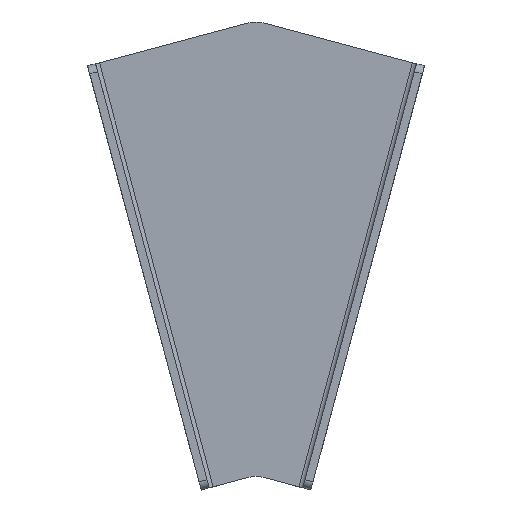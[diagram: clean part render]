
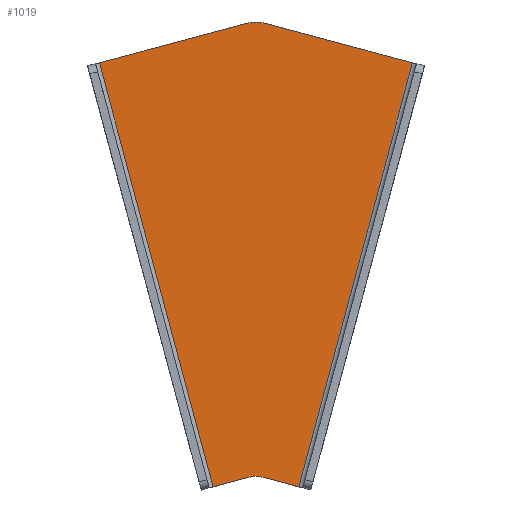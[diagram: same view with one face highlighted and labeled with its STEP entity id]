
A CAD part, top view. The second image highlights one B-rep face of the part: STEP entity #1019.
In plain terms, the highlighted planar face has unit normal (0, 0, 1).
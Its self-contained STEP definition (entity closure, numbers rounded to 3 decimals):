
#48 = EDGE_CURVE ( 'NONE', #654, #288, #596, .T. ) ;
#68 = EDGE_CURVE ( 'NONE', #1754, #936, #81, .T. ) ;
#81 = LINE ( 'NONE', #374, #1686 ) ;
#125 = VERTEX_POINT ( 'NONE', #1771 ) ;
#199 = CARTESIAN_POINT ( 'NONE',  ( 0., 0., 3. ) ) ;
#208 = CARTESIAN_POINT ( 'NONE',  ( 5.275, -132.951, 3. ) ) ;
#255 = CARTESIAN_POINT ( 'NONE',  ( 33.591, -125.364, 3. ) ) ;
#259 = LINE ( 'NONE', #701, #1037 ) ;
#266 = CARTESIAN_POINT ( 'NONE',  ( 20.929, 26.534, 3. ) ) ;
#288 = VERTEX_POINT ( 'NONE', #918 ) ;
#296 = VERTEX_POINT ( 'NONE', #532 ) ;
#334 = VERTEX_POINT ( 'NONE', #693 ) ;
#357 = PLANE ( 'NONE',  #813 ) ;
#374 = CARTESIAN_POINT ( 'NONE',  ( 10.624, 39.648, 3. ) ) ;
#414 = DIRECTION ( 'NONE',  ( 0.966, 0.259, 0. ) ) ;
#419 = ORIENTED_EDGE ( 'NONE', *, *, #500, .T. ) ;
#424 = DIRECTION ( 'NONE',  ( 1., 0., 0. ) ) ;
#455 = EDGE_CURVE ( 'NONE', #936, #1301, #1975, .T. ) ;
#498 = FACE_OUTER_BOUND ( 'NONE', #613, .T. ) ;
#500 = EDGE_CURVE ( 'NONE', #125, #334, #963, .T. ) ;
#501 = VECTOR ( 'NONE', #414, 1000. ) ;
#514 = ORIENTED_EDGE ( 'NONE', *, *, #989, .T. ) ;
#532 = CARTESIAN_POINT ( 'NONE',  ( 36.582, -132.951, 3. ) ) ;
#567 = CARTESIAN_POINT ( 'NONE',  ( 23.517, 36.194, 3. ) ) ;
#596 = LINE ( 'NONE', #208, #1333 ) ;
#599 = AXIS2_PLACEMENT_3D ( 'NONE', #266, #1364, #424 ) ;
#613 = EDGE_LOOP ( 'NONE', ( #1498, #1735, #1692, #419, #1922, #514, #658, #1898 ) ) ;
#654 = VERTEX_POINT ( 'NONE', #1093 ) ;
#658 = ORIENTED_EDGE ( 'NONE', *, *, #68, .T. ) ;
#663 = LINE ( 'NONE', #1499, #1310 ) ;
#676 = DIRECTION ( 'NONE',  ( 0.259, -0.966, 0. ) ) ;
#693 = CARTESIAN_POINT ( 'NONE',  ( 23.517, -129.451, 3. ) ) ;
#701 = CARTESIAN_POINT ( 'NONE',  ( -7.82, 29.184, 3. ) ) ;
#744 = CARTESIAN_POINT ( 'NONE',  ( 20.929, -139.11, 3. ) ) ;
#813 = AXIS2_PLACEMENT_3D ( 'NONE', #199, #1904, #987 ) ;
#816 = AXIS2_PLACEMENT_3D ( 'NONE', #744, #1819, #913 ) ;
#877 = VECTOR ( 'NONE', #1054, 1000. ) ;
#890 = CARTESIAN_POINT ( 'NONE',  ( 77.993, 21.597, 3. ) ) ;
#913 = DIRECTION ( 'NONE',  ( 1., 0., 0. ) ) ;
#918 = CARTESIAN_POINT ( 'NONE',  ( 5.275, -132.951, 3. ) ) ;
#936 = VERTEX_POINT ( 'NONE', #567 ) ;
#963 = CIRCLE ( 'NONE', #816, 10. ) ;
#987 = DIRECTION ( 'NONE',  ( 1., 0., 0. ) ) ;
#989 = EDGE_CURVE ( 'NONE', #296, #1754, #1689, .T. ) ;
#1018 = DIRECTION ( 'NONE',  ( 0.966, 0.259, 0. ) ) ;
#1019 = ADVANCED_FACE ( 'NONE', ( #498 ), #357, .T. ) ;
#1037 = VECTOR ( 'NONE', #1018, 1000. ) ;
#1041 = DIRECTION ( 'NONE',  ( 0.966, -0.259, 0. ) ) ;
#1054 = DIRECTION ( 'NONE',  ( 0.259, 0.966, 0. ) ) ;
#1064 = CARTESIAN_POINT ( 'NONE',  ( 18.341, 36.194, 3. ) ) ;
#1093 = CARTESIAN_POINT ( 'NONE',  ( -36.136, 21.597, 3. ) ) ;
#1146 = EDGE_CURVE ( 'NONE', #654, #1301, #259, .T. ) ;
#1211 = EDGE_CURVE ( 'NONE', #334, #296, #663, .T. ) ;
#1301 = VERTEX_POINT ( 'NONE', #1064 ) ;
#1310 = VECTOR ( 'NONE', #1041, 1000. ) ;
#1333 = VECTOR ( 'NONE', #676, 1000. ) ;
#1364 = DIRECTION ( 'NONE',  ( 0., 0., 1. ) ) ;
#1498 = ORIENTED_EDGE ( 'NONE', *, *, #1146, .F. ) ;
#1499 = CARTESIAN_POINT ( 'NONE',  ( -30.787, -114.9, 3. ) ) ;
#1686 = VECTOR ( 'NONE', #1920, 1000. ) ;
#1689 = LINE ( 'NONE', #1972, #877 ) ;
#1692 = ORIENTED_EDGE ( 'NONE', *, *, #1715, .T. ) ;
#1693 = LINE ( 'NONE', #255, #501 ) ;
#1715 = EDGE_CURVE ( 'NONE', #288, #125, #1693, .T. ) ;
#1735 = ORIENTED_EDGE ( 'NONE', *, *, #48, .T. ) ;
#1754 = VERTEX_POINT ( 'NONE', #890 ) ;
#1771 = CARTESIAN_POINT ( 'NONE',  ( 18.341, -129.451, 3. ) ) ;
#1819 = DIRECTION ( 'NONE',  ( 0., 0., -1. ) ) ;
#1898 = ORIENTED_EDGE ( 'NONE', *, *, #455, .T. ) ;
#1904 = DIRECTION ( 'NONE',  ( 0., 0., 1. ) ) ;
#1920 = DIRECTION ( 'NONE',  ( -0.966, 0.259, 0. ) ) ;
#1922 = ORIENTED_EDGE ( 'NONE', *, *, #1211, .T. ) ;
#1972 = CARTESIAN_POINT ( 'NONE',  ( 77.993, 21.597, 3. ) ) ;
#1975 = CIRCLE ( 'NONE', #599, 10. ) ;
